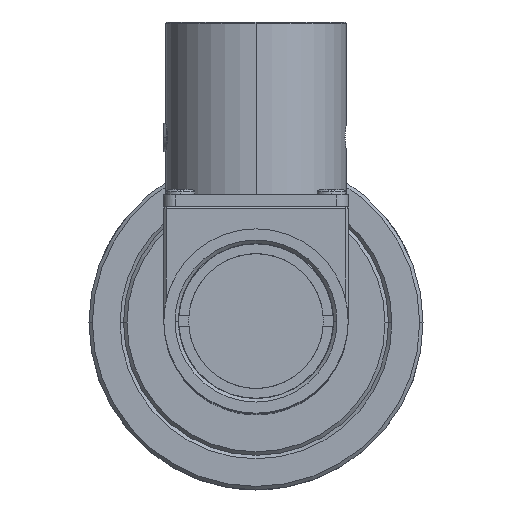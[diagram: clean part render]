
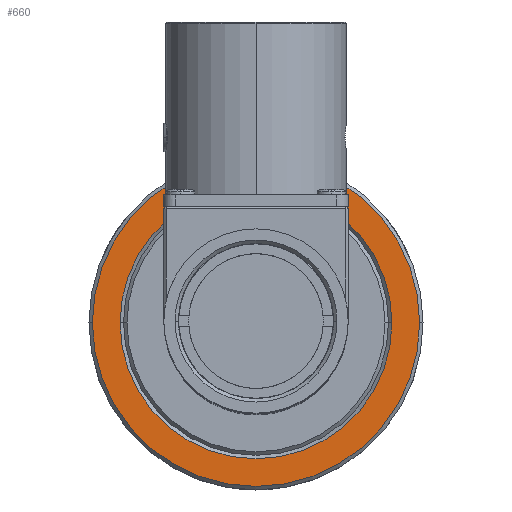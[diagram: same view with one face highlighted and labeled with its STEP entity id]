
A CAD part, top view. The second image highlights one B-rep face of the part: STEP entity #660.
In plain terms, the highlighted planar face has unit normal (0, 0, 1).
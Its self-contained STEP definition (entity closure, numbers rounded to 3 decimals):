
#660 = ADVANCED_FACE ( 'NONE', ( #10600, #10577 ), #10609, .F. ) ;
#671 = ORIENTED_EDGE ( 'NONE', *, *, #11713, .T. ) ;
#681 = EDGE_LOOP ( 'NONE', ( #687, #671 ) ) ;
#687 = ORIENTED_EDGE ( 'NONE', *, *, #1309, .T. ) ;
#699 = ORIENTED_EDGE ( 'NONE', *, *, #11675, .T. ) ;
#701 = ORIENTED_EDGE ( 'NONE', *, *, #1310, .T. ) ;
#705 = EDGE_LOOP ( 'NONE', ( #699, #701 ) ) ;
#1309 = EDGE_CURVE ( 'NONE', #11715, #11714, #9903, .T. ) ;
#1310 = EDGE_CURVE ( 'NONE', #11784, #11787, #9876, .T. ) ;
#4868 = CARTESIAN_POINT ( 'NONE',  ( -11.8, 0., -45.3 ) ) ;
#4874 = CARTESIAN_POINT ( 'NONE',  ( 11.8, 0., -45.3 ) ) ;
#4896 = CARTESIAN_POINT ( 'NONE',  ( 0., 0., -45.3 ) ) ;
#4898 = DIRECTION ( 'NONE',  ( 0., 0., -1. ) ) ;
#4903 = CIRCLE ( 'NONE', #4954, 11.8 ) ;
#4953 = DIRECTION ( 'NONE',  ( -1., 0., 0. ) ) ;
#4954 = AXIS2_PLACEMENT_3D ( 'NONE', #4896, #4898, #4953 ) ;
#4963 = CARTESIAN_POINT ( 'NONE',  ( -14.2, 0., -45.3 ) ) ;
#5003 = DIRECTION ( 'NONE',  ( -1., 0., 0. ) ) ;
#5004 = DIRECTION ( 'NONE',  ( 0., 0., 1. ) ) ;
#5005 = CARTESIAN_POINT ( 'NONE',  ( 0., 0., -45.3 ) ) ;
#5006 = AXIS2_PLACEMENT_3D ( 'NONE', #5005, #5004, #5003 ) ;
#5007 = CIRCLE ( 'NONE', #5006, 14.2 ) ;
#5018 = CARTESIAN_POINT ( 'NONE',  ( 14.2, 0., -45.3 ) ) ;
#9875 = DIRECTION ( 'NONE',  ( 0., 0., 1. ) ) ;
#9876 = CIRCLE ( 'NONE', #9907, 11.8 ) ;
#9903 = CIRCLE ( 'NONE', #9929, 14.2 ) ;
#9906 = CARTESIAN_POINT ( 'NONE',  ( 0., 0., -45.3 ) ) ;
#9907 = AXIS2_PLACEMENT_3D ( 'NONE', #9906, #9930, #9939 ) ;
#9928 = DIRECTION ( 'NONE',  ( -1., 0., 0. ) ) ;
#9929 = AXIS2_PLACEMENT_3D ( 'NONE', #9937, #9875, #9928 ) ;
#9930 = DIRECTION ( 'NONE',  ( 0., 0., -1. ) ) ;
#9937 = CARTESIAN_POINT ( 'NONE',  ( 0., 0., -45.3 ) ) ;
#9939 = DIRECTION ( 'NONE',  ( -1., 0., 0. ) ) ;
#10577 = FACE_OUTER_BOUND ( 'NONE', #681, .T. ) ;
#10590 = DIRECTION ( 'NONE',  ( 0., 0., -1. ) ) ;
#10598 = DIRECTION ( 'NONE',  ( -1., 0., 0. ) ) ;
#10600 = FACE_BOUND ( 'NONE', #705, .T. ) ;
#10608 = CARTESIAN_POINT ( 'NONE',  ( 0., 11.5, -45.3 ) ) ;
#10609 = PLANE ( 'NONE',  #10611 ) ;
#10611 = AXIS2_PLACEMENT_3D ( 'NONE', #10608, #10590, #10598 ) ;
#11675 = EDGE_CURVE ( 'NONE', #11787, #11784, #4903, .T. ) ;
#11713 = EDGE_CURVE ( 'NONE', #11714, #11715, #5007, .T. ) ;
#11714 = VERTEX_POINT ( 'NONE', #5018 ) ;
#11715 = VERTEX_POINT ( 'NONE', #4963 ) ;
#11784 = VERTEX_POINT ( 'NONE', #4868 ) ;
#11787 = VERTEX_POINT ( 'NONE', #4874 ) ;
